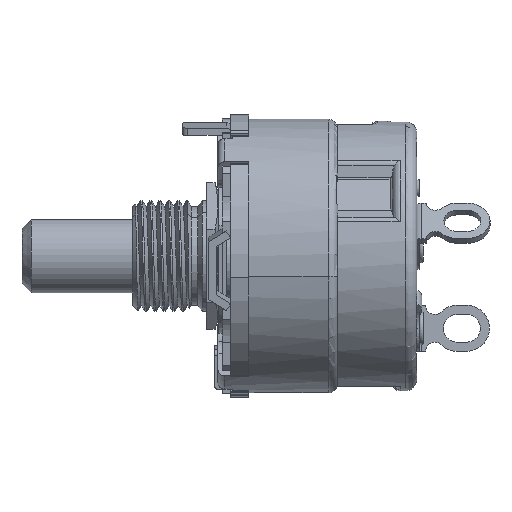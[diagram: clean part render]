
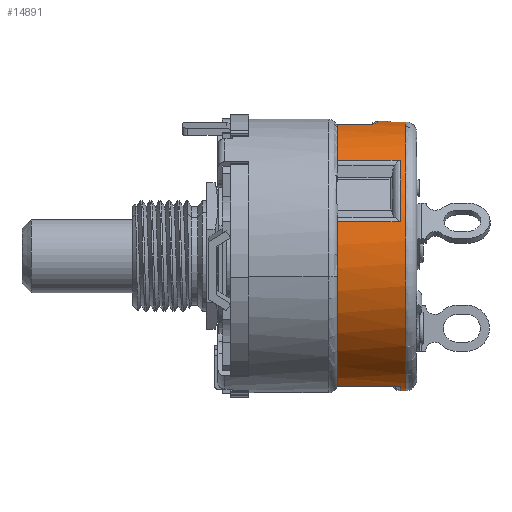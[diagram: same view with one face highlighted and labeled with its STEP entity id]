
A CAD part, left-side view. The second image highlights one B-rep face of the part: STEP entity #14891.
In plain terms, the highlighted cylindrical face has radius 11.608 mm (diameter 23.216 mm), a partial arc.
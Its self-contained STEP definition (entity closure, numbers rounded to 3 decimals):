
#343 = DIRECTION ( 'NONE',  ( 0., 1., 0. ) ) ;
#476 = CARTESIAN_POINT ( 'NONE',  ( 0., 6.807, 0. ) ) ;
#618 = CARTESIAN_POINT ( 'NONE',  ( -2.717, 4.216, 11.285 ) ) ;
#1368 = CIRCLE ( 'NONE', #21300, 11.608 ) ;
#1421 = AXIS2_PLACEMENT_3D ( 'NONE', #12901, #34025, #28831 ) ;
#1475 = CARTESIAN_POINT ( 'NONE',  ( -1.209, 3.353, 11.545 ) ) ;
#1662 = CARTESIAN_POINT ( 'NONE',  ( 0., 3.353, 11.608 ) ) ;
#2251 = DIRECTION ( 'NONE',  ( 0., 1., 0. ) ) ;
#2269 = ORIENTED_EDGE ( 'NONE', *, *, #21168, .F. ) ;
#2545 = CARTESIAN_POINT ( 'NONE',  ( 0., 1.448, 0. ) ) ;
#2684 = CARTESIAN_POINT ( 'NONE',  ( -11.228, 0.457, 2.945 ) ) ;
#2779 = EDGE_LOOP ( 'NONE', ( #6967, #12759, #5314, #24646, #19111, #15230, #30508, #10296, #12002, #20509, #26973, #17241, #11886, #2269, #7480 ) ) ;
#3026 = LINE ( 'NONE', #2684, #5331 ) ;
#3256 = DIRECTION ( 'NONE',  ( 0., 0., 1. ) ) ;
#3566 = AXIS2_PLACEMENT_3D ( 'NONE', #2545, #23491, #10165 ) ;
#3624 = CIRCLE ( 'NONE', #29079, 11.608 ) ;
#3883 = CARTESIAN_POINT ( 'NONE',  ( -1.321, 0.965, 11.532 ) ) ;
#4414 = CARTESIAN_POINT ( 'NONE',  ( 0., 1.448, -11.608 ) ) ;
#4825 = CARTESIAN_POINT ( 'NONE',  ( -1.837, 3.417, 11.463 ) ) ;
#4967 = CARTESIAN_POINT ( 'NONE',  ( 0., 0.457, 11.608 ) ) ;
#5009 = CARTESIAN_POINT ( 'NONE',  ( 0., 0.965, 0. ) ) ;
#5165 = DIRECTION ( 'NONE',  ( 0., 0., -1. ) ) ;
#5314 = ORIENTED_EDGE ( 'NONE', *, *, #6993, .T. ) ;
#5331 = VECTOR ( 'NONE', #27096, 1000. ) ;
#5528 = LINE ( 'NONE', #16245, #8758 ) ;
#5713 = EDGE_CURVE ( 'NONE', #10953, #19173, #11409, .T. ) ;
#6695 = CARTESIAN_POINT ( 'NONE',  ( -8.164, 1.448, 8.251 ) ) ;
#6967 = ORIENTED_EDGE ( 'NONE', *, *, #10698, .F. ) ;
#6993 = EDGE_CURVE ( 'NONE', #23840, #8186, #28691, .T. ) ;
#7258 = CARTESIAN_POINT ( 'NONE',  ( -2.717, 4.216, 11.285 ) ) ;
#7480 = ORIENTED_EDGE ( 'NONE', *, *, #13549, .T. ) ;
#8186 = VERTEX_POINT ( 'NONE', #618 ) ;
#8331 = DIRECTION ( 'NONE',  ( 0., 0., 1. ) ) ;
#8534 = CIRCLE ( 'NONE', #3566, 11.608 ) ;
#8758 = VECTOR ( 'NONE', #31513, 1000. ) ;
#8786 = VERTEX_POINT ( 'NONE', #9386 ) ;
#9157 = CARTESIAN_POINT ( 'NONE',  ( 0., 2.565, 0. ) ) ;
#9173 = CIRCLE ( 'NONE', #1421, 11.608 ) ;
#9386 = CARTESIAN_POINT ( 'NONE',  ( -2.717, 6.807, 11.285 ) ) ;
#9435 = VERTEX_POINT ( 'NONE', #14649 ) ;
#10028 = CARTESIAN_POINT ( 'NONE',  ( -2.698, 4.054, 11.29 ) ) ;
#10165 = DIRECTION ( 'NONE',  ( 0., 0., 1. ) ) ;
#10202 = EDGE_CURVE ( 'NONE', #13391, #27639, #26991, .T. ) ;
#10296 = ORIENTED_EDGE ( 'NONE', *, *, #30896, .T. ) ;
#10698 = EDGE_CURVE ( 'NONE', #23998, #12467, #26076, .T. ) ;
#10953 = VERTEX_POINT ( 'NONE', #24499 ) ;
#11089 = VECTOR ( 'NONE', #33988, 1000. ) ;
#11254 = DIRECTION ( 'NONE',  ( 0., -1., 0. ) ) ;
#11409 = LINE ( 'NONE', #16452, #19691 ) ;
#11531 = AXIS2_PLACEMENT_3D ( 'NONE', #9157, #22487, #30452 ) ;
#11739 = CARTESIAN_POINT ( 'NONE',  ( 0., 2.565, 11.608 ) ) ;
#11886 = ORIENTED_EDGE ( 'NONE', *, *, #10202, .T. ) ;
#12002 = ORIENTED_EDGE ( 'NONE', *, *, #18627, .F. ) ;
#12280 = CARTESIAN_POINT ( 'NONE',  ( -2.584, 3.841, 11.317 ) ) ;
#12467 = VERTEX_POINT ( 'NONE', #11739 ) ;
#12576 = DIRECTION ( 'NONE',  ( 0., -1., 0. ) ) ;
#12609 = EDGE_CURVE ( 'NONE', #25510, #17256, #8534, .T. ) ;
#12759 = ORIENTED_EDGE ( 'NONE', *, *, #23871, .T. ) ;
#12901 = CARTESIAN_POINT ( 'NONE',  ( 0., 1.448, 0. ) ) ;
#13136 = FACE_OUTER_BOUND ( 'NONE', #2779, .T. ) ;
#13391 = VERTEX_POINT ( 'NONE', #29784 ) ;
#13517 = CARTESIAN_POINT ( 'NONE',  ( 0., 3.353, 0. ) ) ;
#13549 = EDGE_CURVE ( 'NONE', #9435, #12467, #21510, .T. ) ;
#14649 = CARTESIAN_POINT ( 'NONE',  ( -1.321, 2.565, 11.532 ) ) ;
#14891 = ADVANCED_FACE ( 'NONE', ( #13136 ), #29054, .T. ) ;
#15223 = CARTESIAN_POINT ( 'NONE',  ( -2.422, 3.668, 11.353 ) ) ;
#15230 = ORIENTED_EDGE ( 'NONE', *, *, #27379, .T. ) ;
#16066 = DIRECTION ( 'NONE',  ( 0., 1., 0. ) ) ;
#16245 = CARTESIAN_POINT ( 'NONE',  ( -1.321, 2.184, 11.532 ) ) ;
#16452 = CARTESIAN_POINT ( 'NONE',  ( -3.064, 0.457, -11.196 ) ) ;
#16752 = EDGE_CURVE ( 'NONE', #33323, #13391, #28621, .T. ) ;
#16859 = CARTESIAN_POINT ( 'NONE',  ( -11.228, 6.807, 2.945 ) ) ;
#17006 = CARTESIAN_POINT ( 'NONE',  ( -2.717, 0.457, 11.285 ) ) ;
#17097 = CIRCLE ( 'NONE', #28729, 11.608 ) ;
#17241 = ORIENTED_EDGE ( 'NONE', *, *, #16752, .T. ) ;
#17256 = VERTEX_POINT ( 'NONE', #24694 ) ;
#17318 = EDGE_CURVE ( 'NONE', #25581, #8786, #17097, .T. ) ;
#17462 = CARTESIAN_POINT ( 'NONE',  ( -1.527, 3.364, 11.508 ) ) ;
#18293 = CARTESIAN_POINT ( 'NONE',  ( -8.164, 6.807, 8.251 ) ) ;
#18627 = EDGE_CURVE ( 'NONE', #10953, #31008, #3624, .T. ) ;
#18893 = DIRECTION ( 'NONE',  ( 0., 0., 1. ) ) ;
#19111 = ORIENTED_EDGE ( 'NONE', *, *, #17318, .F. ) ;
#19173 = VERTEX_POINT ( 'NONE', #21084 ) ;
#19691 = VECTOR ( 'NONE', #11254, 1000. ) ;
#19910 = CARTESIAN_POINT ( 'NONE',  ( -1.369, 3.353, 11.528 ) ) ;
#20424 = DIRECTION ( 'NONE',  ( 0., 1., 0. ) ) ;
#20431 = CARTESIAN_POINT ( 'NONE',  ( -1.99, 3.457, 11.437 ) ) ;
#20509 = ORIENTED_EDGE ( 'NONE', *, *, #5713, .T. ) ;
#21084 = CARTESIAN_POINT ( 'NONE',  ( -3.064, 1.448, -11.196 ) ) ;
#21168 = EDGE_CURVE ( 'NONE', #9435, #27639, #5528, .T. ) ;
#21300 = AXIS2_PLACEMENT_3D ( 'NONE', #13517, #29599, #8331 ) ;
#21510 = CIRCLE ( 'NONE', #11531, 11.608 ) ;
#21514 = CARTESIAN_POINT ( 'NONE',  ( -8.164, 0.457, 8.251 ) ) ;
#21621 = CARTESIAN_POINT ( 'NONE',  ( 0., 0.457, 0. ) ) ;
#21674 = LINE ( 'NONE', #21514, #29230 ) ;
#22317 = EDGE_CURVE ( 'NONE', #8186, #8786, #25963, .T. ) ;
#22487 = DIRECTION ( 'NONE',  ( 0., 1., 0. ) ) ;
#22668 = CARTESIAN_POINT ( 'NONE',  ( -2.717, 4.134, 11.285 ) ) ;
#23415 = VECTOR ( 'NONE', #2251, 1000. ) ;
#23491 = DIRECTION ( 'NONE',  ( 0., -1., 0. ) ) ;
#23840 = VERTEX_POINT ( 'NONE', #1475 ) ;
#23871 = EDGE_CURVE ( 'NONE', #23998, #23840, #1368, .T. ) ;
#23998 = VERTEX_POINT ( 'NONE', #1662 ) ;
#24071 = CARTESIAN_POINT ( 'NONE',  ( 0., 6.807, 0. ) ) ;
#24499 = CARTESIAN_POINT ( 'NONE',  ( -3.064, 6.807, -11.196 ) ) ;
#24646 = ORIENTED_EDGE ( 'NONE', *, *, #22317, .T. ) ;
#24694 = CARTESIAN_POINT ( 'NONE',  ( -11.228, 1.448, 2.945 ) ) ;
#25510 = VERTEX_POINT ( 'NONE', #6695 ) ;
#25581 = VERTEX_POINT ( 'NONE', #18293 ) ;
#25586 = DIRECTION ( 'NONE',  ( 0., 0., 1. ) ) ;
#25963 = LINE ( 'NONE', #17006, #23415 ) ;
#26024 = CARTESIAN_POINT ( 'NONE',  ( 0., 0.457, -11.608 ) ) ;
#26076 = LINE ( 'NONE', #4967, #30677 ) ;
#26693 = DIRECTION ( 'NONE',  ( 0., -1., 0. ) ) ;
#26973 = ORIENTED_EDGE ( 'NONE', *, *, #30888, .T. ) ;
#26991 = CIRCLE ( 'NONE', #31957, 11.608 ) ;
#27096 = DIRECTION ( 'NONE',  ( 0., 1., 0. ) ) ;
#27379 = EDGE_CURVE ( 'NONE', #25581, #25510, #21674, .T. ) ;
#27639 = VERTEX_POINT ( 'NONE', #3883 ) ;
#28369 = CARTESIAN_POINT ( 'NONE',  ( -1.209, 3.353, 11.545 ) ) ;
#28539 = CARTESIAN_POINT ( 'NONE',  ( -2.632, 3.907, 11.306 ) ) ;
#28621 = LINE ( 'NONE', #26024, #11089 ) ;
#28691 = B_SPLINE_CURVE_WITH_KNOTS ( 'NONE', 3,
 ( #28369, #19910, #17462, #4825, #20431, #30794, #15223, #12280, #28539, #10028, #22668, #7258 ),
 .UNSPECIFIED., .F., .F.,
 ( 4, 2, 2, 2, 2, 4 ),
 ( 0., 0., 0.001, 0.001, 0.002, 0.002 ),
 .UNSPECIFIED. ) ;
#28729 = AXIS2_PLACEMENT_3D ( 'NONE', #476, #16066, #3256 ) ;
#28831 = DIRECTION ( 'NONE',  ( 0., 0., 1. ) ) ;
#29054 = CYLINDRICAL_SURFACE ( 'NONE', #34213, 11.608 ) ;
#29079 = AXIS2_PLACEMENT_3D ( 'NONE', #24071, #343, #18893 ) ;
#29230 = VECTOR ( 'NONE', #26693, 1000. ) ;
#29599 = DIRECTION ( 'NONE',  ( 0., -1., 0. ) ) ;
#29784 = CARTESIAN_POINT ( 'NONE',  ( 0., 0.965, -11.608 ) ) ;
#30452 = DIRECTION ( 'NONE',  ( 0., 0., 1. ) ) ;
#30508 = ORIENTED_EDGE ( 'NONE', *, *, #12609, .T. ) ;
#30677 = VECTOR ( 'NONE', #12576, 1000. ) ;
#30794 = CARTESIAN_POINT ( 'NONE',  ( -2.283, 3.583, 11.382 ) ) ;
#30888 = EDGE_CURVE ( 'NONE', #19173, #33323, #9173, .T. ) ;
#30896 = EDGE_CURVE ( 'NONE', #17256, #31008, #3026, .T. ) ;
#31008 = VERTEX_POINT ( 'NONE', #16859 ) ;
#31513 = DIRECTION ( 'NONE',  ( 0., -1., 0. ) ) ;
#31957 = AXIS2_PLACEMENT_3D ( 'NONE', #5009, #20424, #25586 ) ;
#33323 = VERTEX_POINT ( 'NONE', #4414 ) ;
#33988 = DIRECTION ( 'NONE',  ( 0., -1., 0. ) ) ;
#34025 = DIRECTION ( 'NONE',  ( 0., -1., 0. ) ) ;
#34084 = DIRECTION ( 'NONE',  ( 0., -1., 0. ) ) ;
#34213 = AXIS2_PLACEMENT_3D ( 'NONE', #21621, #34084, #5165 ) ;
